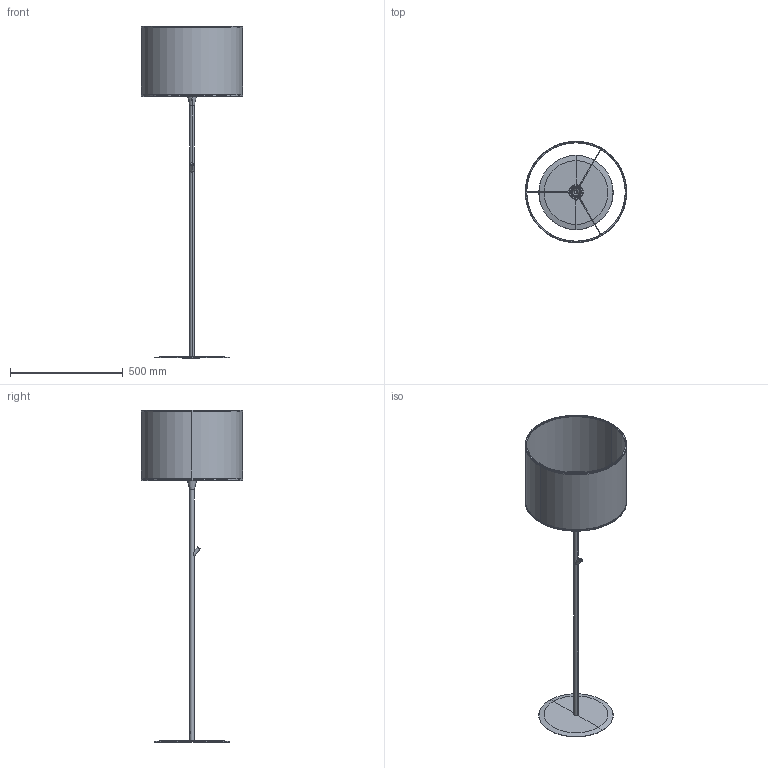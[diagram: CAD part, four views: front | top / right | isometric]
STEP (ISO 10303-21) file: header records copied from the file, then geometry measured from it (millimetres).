
FILE_DESCRIPTION(/* description */ (''),/* implementation_level */ '2;1');
FILE_NAME(/* name */ 'C:\Users\Franco Sartori E\Documents\FARO\DUPLICADO\Modelos\01_Digitalizados\2021\0_MAMBO_SAMBA_CONGA\03_Publicación\64313-49.stp',/* time_stamp */ '2021-02-09T10:18:21+01:00',/* author */ ('Franco Sartori E'),/* organization */ (''),/* preprocessor_version */ 'ST-DEVELOPER v18.1',/* originating_system */ 'AutoCAD Mechanical',/* authorisation */ '');
FILE_SCHEMA (('AUTOMOTIVE_DESIGN { 1 0 10303 214 3 1 1 }'));
Length unit declared in the file: millimetre
Products named in the file (5): Product; 64312_64313_STR - STR-654007-Export; MAMBO - SH-662135-Export; SAMBA - SH-662136-Export; CONGA - SH-664842-Export
Assembly tree (4 placements, depth 2):
  Product
    64312_64313_STR - STR-654007-Export
    MAMBO - SH-662135-Export
    SAMBA - SH-662136-Export
    CONGA - SH-664842-Export
Bounding box: 450 x 450 x 1473.83 mm (x, y, z)
Volume: 1085994 mm3; surface area: 1253572.2 mm2
Topology: 10 solids, 10 shells, 155 faces, 320 edges, 169 vertices
Faces by surface type: cylinder 60, plane 55, torus 24, cone 12, bspline 4
Entity records: 6750 total; most frequent: CARTESIAN_POINT 3482, DIRECTION 684, ORIENTED_EDGE 640, EDGE_CURVE 320, AXIS2_PLACEMENT_3D 283, VERTEX_POINT 169, FACE_OUTER_BOUND 155, EDGE_LOOP 155
